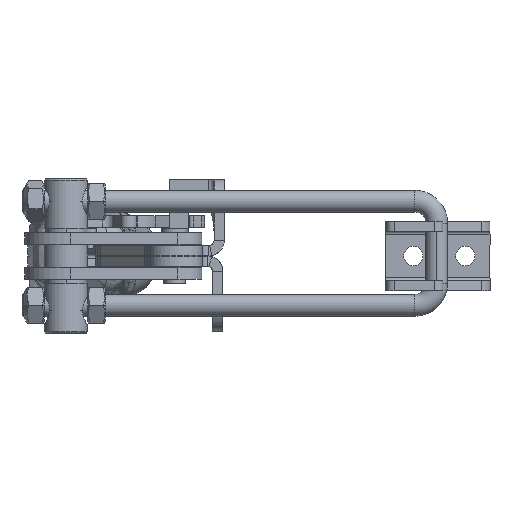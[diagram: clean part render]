
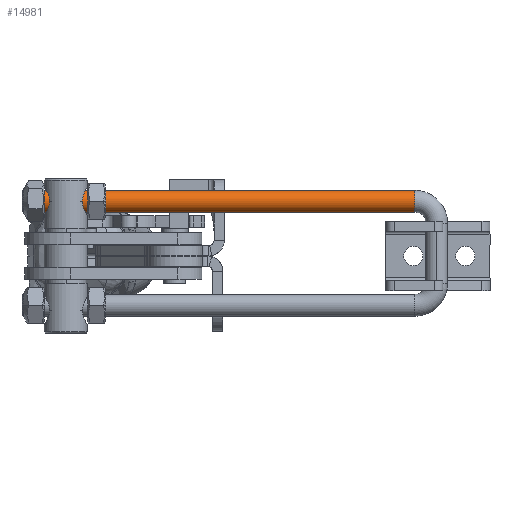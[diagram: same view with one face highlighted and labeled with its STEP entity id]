
A CAD part, left-side view. The second image highlights one B-rep face of the part: STEP entity #14981.
In plain terms, the highlighted cylindrical face has radius 4 mm (diameter 8 mm), a partial arc.
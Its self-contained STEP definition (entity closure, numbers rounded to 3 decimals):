
#1622 = DIRECTION ( 'NONE',  ( 0., -1., 0. ) ) ;
#1743 = EDGE_CURVE ( 'NONE', #21552, #5156, #17534, .T. ) ;
#3443 = DIRECTION ( 'NONE',  ( 0., -1., 0. ) ) ;
#3933 = EDGE_LOOP ( 'NONE', ( #16492, #7243, #28419, #21512 ) ) ;
#5156 = VERTEX_POINT ( 'NONE', #27003 ) ;
#6002 = CIRCLE ( 'NONE', #8234, 4. ) ;
#7168 = EDGE_CURVE ( 'NONE', #8804, #5156, #25512, .T. ) ;
#7243 = ORIENTED_EDGE ( 'NONE', *, *, #25243, .T. ) ;
#7803 = DIRECTION ( 'NONE',  ( 0., -1., 0. ) ) ;
#8234 = AXIS2_PLACEMENT_3D ( 'NONE', #23170, #9802, #25408 ) ;
#8336 = CARTESIAN_POINT ( 'NONE',  ( 15., 0., 0. ) ) ;
#8558 = LINE ( 'NONE', #10506, #13787 ) ;
#8804 = VERTEX_POINT ( 'NONE', #8336 ) ;
#9013 = CARTESIAN_POINT ( 'NONE',  ( 15., 143., 0. ) ) ;
#9052 = CARTESIAN_POINT ( 'NONE',  ( 23., 143., 0. ) ) ;
#9802 = DIRECTION ( 'NONE',  ( 0., -1., 0. ) ) ;
#10387 = VERTEX_POINT ( 'NONE', #9013 ) ;
#10506 = CARTESIAN_POINT ( 'NONE',  ( 15., 143., 0. ) ) ;
#12482 = EDGE_CURVE ( 'NONE', #10387, #8804, #8558, .T. ) ;
#13787 = VECTOR ( 'NONE', #14998, 1000. ) ;
#14971 = CARTESIAN_POINT ( 'NONE',  ( 19., 0., 0. ) ) ;
#14981 = ADVANCED_FACE ( 'NONE', ( #23879 ), #17249, .T. ) ;
#14998 = DIRECTION ( 'NONE',  ( 0., -1., 0. ) ) ;
#15254 = AXIS2_PLACEMENT_3D ( 'NONE', #14971, #1622, #17209 ) ;
#16492 = ORIENTED_EDGE ( 'NONE', *, *, #12482, .F. ) ;
#16881 = CARTESIAN_POINT ( 'NONE',  ( 19., 143., 0. ) ) ;
#17209 = DIRECTION ( 'NONE',  ( 0., 0., 1. ) ) ;
#17249 = CYLINDRICAL_SURFACE ( 'NONE', #27637, 4. ) ;
#17534 = LINE ( 'NONE', #27850, #22771 ) ;
#21261 = DIRECTION ( 'NONE',  ( 1., 0., 0. ) ) ;
#21512 = ORIENTED_EDGE ( 'NONE', *, *, #7168, .F. ) ;
#21552 = VERTEX_POINT ( 'NONE', #9052 ) ;
#22771 = VECTOR ( 'NONE', #3443, 1000. ) ;
#23170 = CARTESIAN_POINT ( 'NONE',  ( 19., 143., 0. ) ) ;
#23879 = FACE_OUTER_BOUND ( 'NONE', #3933, .T. ) ;
#25243 = EDGE_CURVE ( 'NONE', #10387, #21552, #6002, .T. ) ;
#25408 = DIRECTION ( 'NONE',  ( 0., 0., 1. ) ) ;
#25512 = CIRCLE ( 'NONE', #15254, 4. ) ;
#27003 = CARTESIAN_POINT ( 'NONE',  ( 23., 0., 0. ) ) ;
#27637 = AXIS2_PLACEMENT_3D ( 'NONE', #16881, #7803, #21261 ) ;
#27850 = CARTESIAN_POINT ( 'NONE',  ( 23., 143., 0. ) ) ;
#28419 = ORIENTED_EDGE ( 'NONE', *, *, #1743, .T. ) ;
